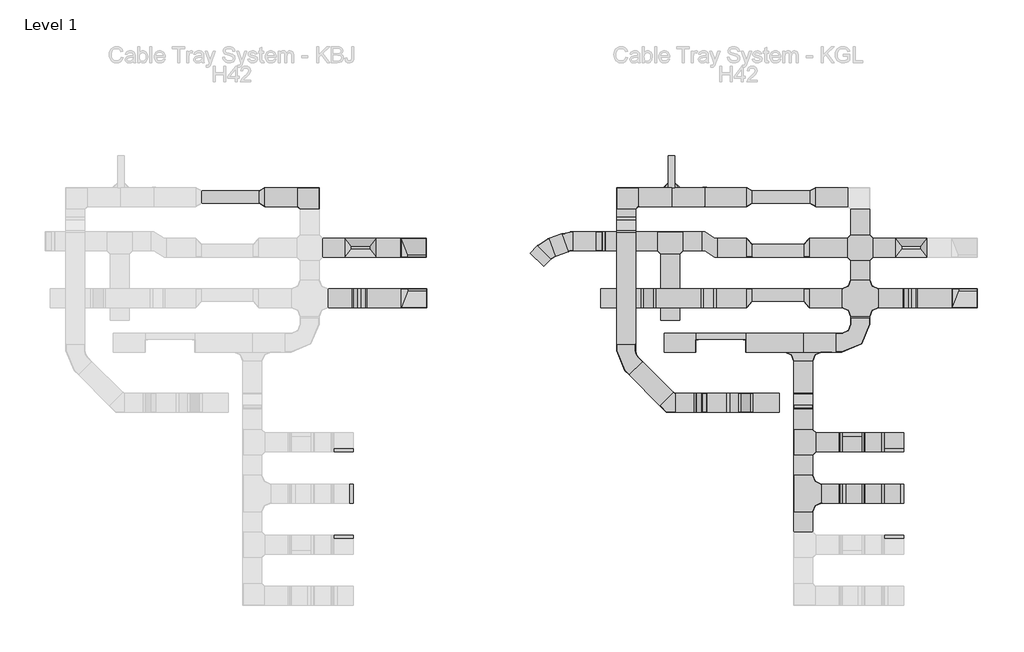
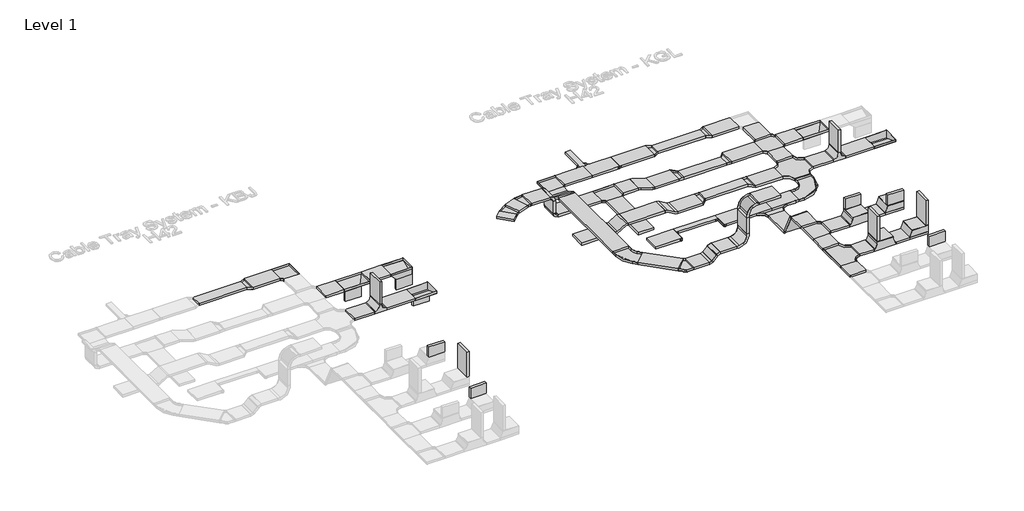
# One storey, part 7 of 106: 67 cable carrier segments, 48 cable carrier fittings.
"""IFC4 building model written with IfcOpenShell, lengths in millimetres."""

from ifc_helpers import new_model, si_unit, frame, origin, place, context, project, spatial, polyline, outline, extrude, transform, mapped, element, save
from components import cable_carrier_fitting_2f03b0e3, cable_carrier_fitting_e5c8e40d, cable_carrier_fitting_89415aa4, cable_carrier_fitting_efa56db2, cable_carrier_fitting_91cb0ece, cable_carrier_fitting_fd90c8b5, cable_carrier_fitting_9cc64f74, cable_carrier_fitting_881c8fdb, cable_carrier_fitting_302010ec, cable_carrier_fitting_bee8c25e, cable_carrier_fitting_2b67af39, cable_carrier_fitting_400b97e6, cable_carrier_fitting_736d034b, cable_carrier_fitting_af289c29, cable_carrier_fitting_3ff81d9b, cable_carrier_fitting_1724e2f5, cable_carrier_fitting_0e05e12f, cable_carrier_fitting_b8cc1d00, cable_carrier_fitting_19ef2403, cable_carrier_fitting_0fee3a18, cable_carrier_fitting_e93d4d17, cable_carrier_fitting_f62230c1, cable_carrier_fitting_68112528, cable_carrier_fitting_3c0e6721, cable_carrier_fitting_94ef316f, cable_carrier_fitting_d4aa8912, cable_carrier_fitting_70c157f5, cable_carrier_fitting_f138ef00, cable_carrier_fitting_b296faec, cable_carrier_fitting_717dd42d, cable_carrier_fitting_55953e98, cable_carrier_fitting_c1d9b0e5, rkj200_h42_1d64d163, rkj200_h42_0f858a6a

model = new_model("IFC4")

# Units and contexts
model_context = context("Model", 3, world=origin())
ifc_project = project(units=[si_unit("LENGTHUNIT", "METRE", prefix="MILLI")], contexts=[model_context])

# Site, building, storey
site = spatial("IfcSite", under=ifc_project)
building = spatial("IfcBuilding", under=site)
storey = spatial("IfcBuildingStorey", under=building, Name="Level 1", Elevation=0.0)

# Cable carrier fittings
placement = place(None, origin())
cable_carrier_fitting_shape = cable_carrier_fitting_2f03b0e3(model_context)
element("IfcCableCarrierFitting", 1, ObjectType="BAKS_Vertical tee symetrical : TRSNJ_H42", at=placement, inside=storey, context=model_context, shape_type="MappedRepresentation", body=[
    mapped(cable_carrier_fitting_shape, transform((-6858.1670538, 67780.8714214, 0.0), x_axis=(1.0, 0.0, 0.0), y_axis=(0.0, -1.0, 0.0), z_axis=(0.0, 0.0, -1.0))),
])
element("IfcCableCarrierFitting", 2, ObjectType="BAKS_Vertical tee symetrical : TRSNJ_H42", at=placement, inside=storey, context=model_context, shape_type="MappedRepresentation", body=[
    mapped(cable_carrier_fitting_shape, transform((-15558.1670538, 67780.8714214, 0.0), x_axis=(1.0, 0.0, 0.0), y_axis=(0.0, -1.0, 0.0), z_axis=(0.0, 0.0, -1.0))),
])
cable_carrier_fitting_2_shape = cable_carrier_fitting_e5c8e40d(model_context)
element("IfcCableCarrierFitting", 3, ObjectType="BAKS_SUB_Corner connector : LRJ_H42", at=placement, inside=storey, context=model_context, shape_type="MappedRepresentation", body=[
    mapped(cable_carrier_fitting_2_shape, transform((-10675.1670538, 69530.8714214, -21.0), x_axis=(-1.0, 0.0, 0.0), y_axis=(0.0, -1.0, 0.0), z_axis=(0.0, 0.0, 1.0))),
])
element("IfcCableCarrierFitting", 4, ObjectType="BAKS_SUB_Corner connector : LRJ_H42", at=placement, inside=storey, context=model_context, shape_type="MappedRepresentation", body=[
    mapped(cable_carrier_fitting_2_shape, transform((-10575.1670538, 69530.8714214, -21.0), x_axis=(0.0, 1.0, 0.0), y_axis=(-1.0, 0.0, 0.0), z_axis=(0.0, 0.0, 1.0))),
])
cable_carrier_fitting_3_shape = cable_carrier_fitting_89415aa4(model_context)
element("IfcCableCarrierFitting", 5, ObjectType="BAKS_Horizontal bend : KKBL/KKMBL_H42", at=placement, inside=storey, context=model_context, shape_type="MappedRepresentation", body=[
    mapped(cable_carrier_fitting_3_shape, transform((-10643.6670538, 66131.3714214, 100.0), x_axis=(0.7071067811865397, -0.7071067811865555, 0.0), y_axis=(0.7071067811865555, 0.7071067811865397, 0.0), z_axis=(0.0, 0.0, 1.0))),
])
cable_carrier_fitting_4_shape = cable_carrier_fitting_efa56db2(model_context)
element("IfcCableCarrierFitting", 6, ObjectType="BAKS_Horizontal bypass : OPZNJ_H42", at=placement, inside=storey, context=model_context, shape_type="MappedRepresentation", body=[
    mapped(cable_carrier_fitting_4_shape, transform((-10022.1670538, 68580.8714214, 0.0), x_axis=(-1.0, 0.0, 0.0), y_axis=(0.0, 1.0, 0.0), z_axis=(0.0, 0.0, -1.0))),
])
cable_carrier_fitting_5_shape = cable_carrier_fitting_91cb0ece(model_context)
element("IfcCableCarrierFitting", 7, ObjectType="BAKS_Horizontal cross over : CZKL_H42", at=placement, inside=storey, context=model_context, shape_type="MappedRepresentation", body=[
    mapped(cable_carrier_fitting_5_shape, transform((-7643.1670538, 68580.8714214, 0.0), x_axis=(0.0, -1.0, 0.0), y_axis=(1.0, 0.0, 0.0), z_axis=(0.0, 0.0, 1.0))),
])
cable_carrier_fitting_6_shape = cable_carrier_fitting_fd90c8b5(model_context)
element("IfcCableCarrierFitting", 8, ObjectType="BAKS_Horizontal tee radius : TKPJ_H42", at=placement, inside=storey, context=model_context, shape_type="MappedRepresentation", body=[
    mapped(cable_carrier_fitting_6_shape, transform((-8546.1670538, 64696.5802898, 432.5277378), x_axis=(0.0, 1.0, 0.0), y_axis=(-1.0, 0.0, 0.0), z_axis=(0.0, 0.0, 1.0))),
])
cable_carrier_fitting_7_shape = cable_carrier_fitting_9cc64f74(model_context)
element("IfcCableCarrierFitting", 9, ObjectType="BAKS_Horizontal tee : TKL_H42", at=placement, inside=storey, context=model_context, shape_type="MappedRepresentation", body=[
    mapped(cable_carrier_fitting_7_shape, transform((-10643.6670538, 68680.8714214, 0.0), x_axis=(1.0, 0.0, 0.0), y_axis=(0.0, 1.0, 0.0), z_axis=(0.0, 0.0, 1.0))),
])
element("IfcCableCarrierFitting", 10, ObjectType="BAKS_Horizontal tee : TKL_H42", at=placement, inside=storey, context=model_context, shape_type="MappedRepresentation", body=[
    mapped(cable_carrier_fitting_7_shape, transform((-8546.1670538, 65503.8631068, 432.5277378), x_axis=(0.0, 1.0, 0.0), y_axis=(-1.0, 0.0, 0.0), z_axis=(0.0, 0.0, 1.0))),
])
cable_carrier_fitting_8_shape = cable_carrier_fitting_881c8fdb(model_context)
element("IfcCableCarrierFitting", 11, ObjectType="BAKS_Universal elbow : KRUMJ_H42", at=placement, inside=storey, context=model_context, shape_type="MappedRepresentation", body=[
    mapped(cable_carrier_fitting_8_shape, transform((-7306.1670538, 64696.5802898, 432.5277378), x_axis=(1.0, 0.0, 0.0), y_axis=(0.0, 1.0, 0.0), z_axis=(0.0, 0.0, 1.0))),
])
cable_carrier_fitting_9_shape = cable_carrier_fitting_302010ec(model_context)
element("IfcCableCarrierFitting", 12, ObjectType="BAKS_Universal tee : TRUNJ_H42", at=placement, inside=storey, context=model_context, shape_type="MappedRepresentation", body=[
    mapped(cable_carrier_fitting_9_shape, transform((-7773.5199976, 64696.5802898, 432.5277378), x_axis=(-1.0, 0.0, 0.0), y_axis=(0.0, -1.0, 0.0), z_axis=(0.0, 0.0, 1.0))),
])
cable_carrier_fitting_10_shape = cable_carrier_fitting_bee8c25e(model_context)
element("IfcCableCarrierFitting", 13, ObjectType="BAKS_Vertical bend adjustable : LLL/LLJ_H42", at=placement, inside=storey, context=model_context, shape_type="MappedRepresentation", body=[
    mapped(cable_carrier_fitting_10_shape, transform((-9546.2659001, 66131.3714214, 237.4011537), x_axis=(1.0, 0.0, 0.0), y_axis=(0.0, 0.0, 1.0), z_axis=(0.0, -1.0, 0.0))),
])
element("IfcCableCarrierFitting", 14, ObjectType="BAKS_Vertical bend adjustable : LLL/LLJ_H42", at=placement, inside=storey, context=model_context, shape_type="MappedRepresentation", body=[
    mapped(cable_carrier_fitting_10_shape, transform((-9546.2659001, 66131.3714214, 977.4011537), x_axis=(0.0, 0.0, 1.0), y_axis=(1.0, 0.0, 0.0), z_axis=(0.0, 1.0, 0.0))),
])
cable_carrier_fitting_11_shape = cable_carrier_fitting_2b67af39(model_context)
element("IfcCableCarrierFitting", 15, ObjectType="BAKS_Vertical bypass : OPNNJ_H42", at=placement, inside=storey, context=model_context, shape_type="MappedRepresentation", body=[
    mapped(cable_carrier_fitting_11_shape, transform((-10986.6670538, 67780.8714214, 100.0), x_axis=(-1.0, 0.0, 0.0), y_axis=(0.0, -1.0, 0.0), z_axis=(0.0, 0.0, 1.0))),
])
cable_carrier_fitting_12_shape = cable_carrier_fitting_400b97e6(model_context)
element("IfcCableCarrierFitting", 16, ObjectType="BAKS_Vertical elbow left : KRLBJ_H42", at=placement, inside=storey, context=model_context, shape_type="MappedRepresentation", body=[
    mapped(cable_carrier_fitting_12_shape, transform((-14908.1670538, 68580.8714214, 0.0), x_axis=(1.0, 0.0, 0.0), y_axis=(0.0, 1.0, 0.0), z_axis=(0.0, 0.0, 1.0))),
])
cable_carrier_fitting_13_shape = cable_carrier_fitting_736d034b(model_context)
element("IfcCableCarrierFitting", 17, ObjectType="BAKS_Vertical tee lengthwise : TRBJ_H42", at=placement, inside=storey, context=model_context, shape_type="MappedRepresentation", body=[
    mapped(cable_carrier_fitting_13_shape, transform((-6838.1670538, 68580.8714214, 0.0), x_axis=(-1.0, 0.0, 0.0), y_axis=(0.0, -1.0, 0.0), z_axis=(0.0, 0.0, 1.0))),
])
element("IfcCableCarrierFitting", 18, ObjectType="BAKS_Vertical tee lengthwise : TRBJ_H42", at=placement, inside=storey, context=model_context, shape_type="MappedRepresentation", body=[
    mapped(cable_carrier_fitting_13_shape, transform((-15538.1670538, 68580.8714214, 0.0), x_axis=(-1.0, 0.0, 0.0), y_axis=(0.0, -1.0, 0.0), z_axis=(0.0, 0.0, 1.0))),
])
cable_carrier_fitting_14_shape = cable_carrier_fitting_af289c29(model_context)
element("IfcCableCarrierFitting", 19, ObjectType="BAKS_Articulated_connector : LGJ_H42", at=placement, inside=storey, context=model_context, shape_type="MappedRepresentation", body=[
    mapped(cable_carrier_fitting_14_shape, transform((-8546.1670538, 66258.7056523, 0.0), x_axis=(0.0, -1.0, 0.0), y_axis=(0.0, 0.0, 1.0), z_axis=(-1.0, 0.0, 0.0))),
])
element("IfcCableCarrierFitting", 20, ObjectType="BAKS_Articulated_connector : LGJ_H42", at=placement, inside=storey, context=model_context, shape_type="MappedRepresentation", body=[
    mapped(cable_carrier_fitting_14_shape, transform((-8546.1670538, 66057.0146558, 432.5277378), x_axis=(0.0, -0.42261826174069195, 0.9063077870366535), y_axis=(0.0, -0.9063077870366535, -0.42261826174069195), z_axis=(1.0, 0.0, 0.0))),
])
cable_carrier_fitting_15_shape = cable_carrier_fitting_3ff81d9b(model_context)
element("IfcCableCarrierFitting", 21, ObjectType="BAKS_Universal tee : TRUNJ_H42", at=placement, inside=storey, context=model_context, shape_type="MappedRepresentation", body=[
    mapped(cable_carrier_fitting_15_shape, transform((-7773.5199976, 65503.8631068, 432.5277378), x_axis=(-1.0, 0.0, 0.0), y_axis=(0.0, -1.0, 0.0), z_axis=(0.0, 0.0, 1.0))),
])
cable_carrier_fitting_16_shape = cable_carrier_fitting_1724e2f5(model_context)
element("IfcCableCarrierFitting", 22, ObjectType="BAKS_Vertical bypass : OPNNJ_H42", at=placement, inside=storey, context=model_context, shape_type="MappedRepresentation", body=[
    mapped(cable_carrier_fitting_16_shape, transform((-10043.6670538, 67780.8714214, 0.0), x_axis=(-1.0, 0.0, 0.0), y_axis=(0.0, -1.0, 0.0), z_axis=(0.0, 0.0, 1.0))),
])
element("IfcCableCarrierFitting", 23, ObjectType="BAKS_Vertical bypass : OPNNJ_H42", at=placement, inside=storey, context=model_context, shape_type="MappedRepresentation", body=[
    mapped(cable_carrier_fitting_16_shape, transform((-11343.1670538, 68939.3714214, 0.0), x_axis=(0.0, -1.0, 0.0), y_axis=(1.0, 0.0, 0.0), z_axis=(0.0, 0.0, 1.0))),
])
cable_carrier_fitting_17_shape = cable_carrier_fitting_0e05e12f(model_context)
element("IfcCableCarrierFitting", 24, ObjectType="BAKS_Universal elbow : KRUMJ_H42", at=placement, inside=storey, context=model_context, shape_type="MappedRepresentation", body=[
    mapped(cable_carrier_fitting_17_shape, transform((-7306.1670538, 65503.8631068, 432.5277378), x_axis=(1.0, 0.0, 0.0), y_axis=(0.0, 1.0, 0.0), z_axis=(0.0, 0.0, 1.0))),
])
cable_carrier_fitting_18_shape = cable_carrier_fitting_b8cc1d00(model_context)
element("IfcCableCarrierFitting", 25, ObjectType="BAKS_Vertical elbow right : KRPJ_H42", at=placement, inside=storey, context=model_context, shape_type="MappedRepresentation", body=[
    mapped(cable_carrier_fitting_18_shape, transform((-6202.1670538, 67780.8714214, 0.0), x_axis=(1.0, 0.0, 0.0), y_axis=(0.0, 1.0, 0.0), z_axis=(0.0, 0.0, 1.0))),
])
element("IfcCableCarrierFitting", 26, ObjectType="BAKS_Vertical elbow right : KRPJ_H42", at=placement, inside=storey, context=model_context, shape_type="MappedRepresentation", body=[
    mapped(cable_carrier_fitting_18_shape, transform((-14902.1670538, 67780.8714214, 0.0), x_axis=(1.0, 0.0, 0.0), y_axis=(0.0, 1.0, 0.0), z_axis=(0.0, 0.0, 1.0))),
])
cable_carrier_fitting_19_shape = cable_carrier_fitting_19ef2403(model_context)
element("IfcCableCarrierFitting", 27, ObjectType="BAKS_Adjustable bend : KKRPJ_H42", at=placement, inside=storey, context=model_context, shape_type="MappedRepresentation", body=[
    mapped(cable_carrier_fitting_19_shape, transform((-12581.9563973, 68557.7441698, 400.0), x_axis=(-0.9396926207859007, -0.34202014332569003, 0.0), y_axis=(0.34202014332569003, -0.9396926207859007, 0.0), z_axis=(0.0, 0.0, 1.0))),
])
cable_carrier_fitting_20_shape = cable_carrier_fitting_0fee3a18(model_context)
element("IfcCableCarrierFitting", 28, ObjectType="BAKS_Adjustable bend : KKRPJ_H42", at=placement, inside=storey, context=model_context, shape_type="MappedRepresentation", body=[
    mapped(cable_carrier_fitting_20_shape, transform((-12243.6670538, 68680.8714214, 400.0), x_axis=(-1.0, 0.0, 0.0), y_axis=(0.0, -1.0, 0.0), z_axis=(0.0, 0.0, 1.0))),
])
cable_carrier_fitting_21_shape = cable_carrier_fitting_e93d4d17(model_context)
element("IfcCableCarrierFitting", 29, ObjectType="BAKS_Plate connector : LPMU_H42", at=placement, inside=storey, context=model_context, shape_type="MappedRepresentation", body=[
    mapped(cable_carrier_fitting_21_shape, transform((-10103.1670538, 69380.8714214, 0.0), x_axis=(1.0, 0.0, 0.0), y_axis=(0.0, 1.0, 0.0), z_axis=(0.0, 0.0, 1.0))),
])
cable_carrier_fitting_22_shape = cable_carrier_fitting_f62230c1(model_context)
element("IfcCableCarrierFitting", 30, ObjectType="BAKS_Vertical bend LU : LLJ_H42", at=placement, inside=storey, context=model_context, shape_type="MappedRepresentation", body=[
    mapped(cable_carrier_fitting_22_shape, transform((-11743.6670538, 68680.8714214, 0.0), x_axis=(-1.0, 0.0, 0.0), y_axis=(0.0, 0.0, 1.0), z_axis=(0.0, 1.0, 0.0))),
])
element("IfcCableCarrierFitting", 31, ObjectType="BAKS_Vertical bend LU : LLJ_H42", at=placement, inside=storey, context=model_context, shape_type="MappedRepresentation", body=[
    mapped(cable_carrier_fitting_22_shape, transform((-11743.6670538, 68680.8714214, 400.0), x_axis=(0.0, 0.0, 1.0), y_axis=(-1.0, 0.0, 0.0), z_axis=(0.0, -1.0, 0.0))),
])
cable_carrier_fitting_23_shape = cable_carrier_fitting_68112528(model_context)
element("IfcCableCarrierFitting", 32, ObjectType="BAKS_Vertical bend LU : LLJ_H42", at=placement, inside=storey, context=model_context, shape_type="MappedRepresentation", body=[
    mapped(cable_carrier_fitting_23_shape, transform((-10243.6670538, 66131.3714214, 100.0), x_axis=(1.0, 0.0, 0.0), y_axis=(0.0, 0.0, 1.0), z_axis=(0.0, -1.0, 0.0))),
])
element("IfcCableCarrierFitting", 33, ObjectType="BAKS_Vertical bend LU : LLJ_H42", at=placement, inside=storey, context=model_context, shape_type="MappedRepresentation", body=[
    mapped(cable_carrier_fitting_23_shape, transform((-10106.2659001, 66131.3714214, 237.4011537), x_axis=(0.7071067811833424, 0.0, 0.7071067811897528), y_axis=(0.7071067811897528, 0.0, -0.7071067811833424), z_axis=(0.0, 1.0, 0.0))),
])
cable_carrier_fitting_24_shape = cable_carrier_fitting_3c0e6721(model_context)
element("IfcCableCarrierFitting", 34, ObjectType="BAKS_Horizontal cross over radius : CZKPJ_H42", at=placement, inside=storey, context=model_context, shape_type="MappedRepresentation", body=[
    mapped(cable_carrier_fitting_24_shape, transform((-7643.1670538, 67780.8714214, 0.0), x_axis=(0.0, -1.0, 0.0), y_axis=(1.0, 0.0, 0.0), z_axis=(0.0, 0.0, 1.0))),
])
cable_carrier_fitting_25_shape = cable_carrier_fitting_94ef316f(model_context)
element("IfcCableCarrierFitting", 35, ObjectType="BAKS_Reducer : RK(S/L/P)L_H42", at=placement, inside=storey, context=model_context, shape_type="MappedRepresentation", body=[
    mapped(cable_carrier_fitting_25_shape, transform((-9443.1670538, 69380.8714214, 0.0), x_axis=(1.0, 0.0, 0.0), y_axis=(0.0, 1.0, 0.0), z_axis=(0.0, 0.0, 1.0))),
])
cable_carrier_fitting_26_shape = cable_carrier_fitting_d4aa8912(model_context)
element("IfcCableCarrierFitting", 36, ObjectType="BAKS_Reducer : RK(S/L/P)L_H42", at=placement, inside=storey, context=model_context, shape_type="MappedRepresentation", body=[
    mapped(cable_carrier_fitting_26_shape, transform((-8443.1670538, 69380.8714214, 0.0), x_axis=(1.0, 0.0, 0.0), y_axis=(0.0, 1.0, 0.0), z_axis=(0.0, 0.0, 1.0))),
])
element("IfcCableCarrierFitting", 37, ObjectType="BAKS_Reducer : RK(S/L/P)L_H42", at=placement, inside=storey, context=model_context, shape_type="MappedRepresentation", body=[
    mapped(cable_carrier_fitting_26_shape, transform((-17143.1670538, 69380.8714214, 0.0), x_axis=(1.0, 0.0, 0.0), y_axis=(0.0, 1.0, 0.0), z_axis=(0.0, 0.0, 1.0))),
])
cable_carrier_fitting_27_shape = cable_carrier_fitting_70c157f5(model_context)
element("IfcCableCarrierFitting", 38, ObjectType="BAKS_Reducer : RK(S/L/P)L_H42", at=placement, inside=storey, context=model_context, shape_type="MappedRepresentation", body=[
    mapped(cable_carrier_fitting_27_shape, transform((-9443.1670538, 68580.8714214, 0.0), x_axis=(1.0, 0.0, 0.0), y_axis=(0.0, 1.0, 0.0), z_axis=(0.0, 0.0, 1.0))),
])
element("IfcCableCarrierFitting", 39, ObjectType="BAKS_Reducer : RK(S/L/P)L_H42", at=placement, inside=storey, context=model_context, shape_type="MappedRepresentation", body=[
    mapped(cable_carrier_fitting_27_shape, transform((-8443.1670538, 67780.8714214, 0.0), x_axis=(-1.0, 0.0, 0.0), y_axis=(0.0, -1.0, 0.0), z_axis=(0.0, 0.0, 1.0))),
])
cable_carrier_fitting_28_shape = cable_carrier_fitting_f138ef00(model_context)
element("IfcCableCarrierFitting", 40, ObjectType="BAKS_Reducer : RK(S/L/P)L_H42", at=placement, inside=storey, context=model_context, shape_type="MappedRepresentation", body=[
    mapped(cable_carrier_fitting_28_shape, transform((-8443.1670538, 68580.8714214, 0.0), x_axis=(-1.0, 0.0, 0.0), y_axis=(0.0, -1.0, 0.0), z_axis=(0.0, 0.0, 1.0))),
])
element("IfcCableCarrierFitting", 41, ObjectType="BAKS_Reducer : RK(S/L/P)L_H42", at=placement, inside=storey, context=model_context, shape_type="MappedRepresentation", body=[
    mapped(cable_carrier_fitting_28_shape, transform((-9443.1670538, 67780.8714214, 0.0), x_axis=(1.0, 0.0, 0.0), y_axis=(0.0, 1.0, 0.0), z_axis=(0.0, 0.0, 1.0))),
])
cable_carrier_fitting_29_shape = cable_carrier_fitting_b296faec(model_context)
element("IfcCableCarrierFitting", 42, ObjectType="BAKS_Horizontal addon tee : TKDJ_H42", at=placement, inside=storey, context=model_context, shape_type="MappedRepresentation", body=[
    mapped(cable_carrier_fitting_29_shape, transform((-8546.1670538, 67080.8714214, 0.0), x_axis=(1.0, 0.0, 0.0), y_axis=(0.0, 1.0, 0.0), z_axis=(0.0, 0.0, 1.0))),
])
cable_carrier_fitting_30_shape = cable_carrier_fitting_717dd42d(model_context)
element("IfcCableCarrierFitting", 43, ObjectType="BAKS_Horizontal bend : KKBL/KKMBL_H42", at=placement, inside=storey, context=model_context, shape_type="MappedRepresentation", body=[
    mapped(cable_carrier_fitting_30_shape, transform((-16343.1670538, 69380.8714214, 0.0), x_axis=(0.0, 1.0, 0.0), y_axis=(-1.0, 0.0, 0.0), z_axis=(0.0, 0.0, 1.0))),
])
element("IfcCableCarrierFitting", 44, ObjectType="BAKS_Horizontal bend : KKBL/KKMBL_H42", at=placement, inside=storey, context=model_context, shape_type="MappedRepresentation", body=[
    mapped(cable_carrier_fitting_30_shape, transform((-11343.1670538, 69380.8714214, 0.0), x_axis=(-1.0, 0.0, 0.0), y_axis=(0.0, -1.0, 0.0), z_axis=(0.0, 0.0, 1.0))),
])
cable_carrier_fitting_31_shape = cable_carrier_fitting_55953e98(model_context)
element("IfcCableCarrierFitting", 45, ObjectType="BAKS_Horizontal bend radius : KKPJ/KKMPJ_H42", at=placement, inside=storey, context=model_context, shape_type="MappedRepresentation", body=[
    mapped(cable_carrier_fitting_31_shape, transform((-11343.1670538, 66830.8714214, 100.0), x_axis=(0.0, -1.0, 0.0), y_axis=(1.0, 0.0, 0.0), z_axis=(0.0, 0.0, 1.0))),
])
cable_carrier_fitting_32_shape = cable_carrier_fitting_c1d9b0e5(model_context)
element("IfcCableCarrierFitting", 46, ObjectType="BAKS_Horizontal bend radius : KKPJ/KKMPJ_H42", at=placement, inside=storey, context=model_context, shape_type="MappedRepresentation", body=[
    mapped(cable_carrier_fitting_32_shape, transform((-7643.1670538, 67080.8714214, 0.0), x_axis=(1.0, 0.0, 0.0), y_axis=(0.0, 1.0, 0.0), z_axis=(0.0, 0.0, 1.0))),
])
rkj200_h42_shape = rkj200_h42_1d64d163(model_context)
element("IfcCableCarrierFitting", 47, ObjectType="BAKS_SUB_Reduction angular : RKJ200_H42", at=placement, inside=storey, context=model_context, shape_type="MappedRepresentation", body=[
    mapped(rkj200_h42_shape, transform((-10243.1670538, 66930.8714214, -21.0), x_axis=(1.0, 0.0, 0.0), y_axis=(0.0, 1.0, 0.0), z_axis=(0.0, 0.0, 1.0))),
])
rkj200_h42_2_shape = rkj200_h42_0f858a6a(model_context)
element("IfcCableCarrierFitting", 48, ObjectType="BAKS_SUB_Reduction angular : RKJ200_H42", at=placement, inside=storey, context=model_context, shape_type="MappedRepresentation", body=[
    mapped(rkj200_h42_2_shape, transform((-9453.1670538, 66930.8714214, -21.0), x_axis=(-1.0, 0.0, 0.0), y_axis=(0.0, -1.0, 0.0), z_axis=(0.0, 0.0, 1.0))),
])

# Cable carrier segments
element("IfcCableCarrierSegment", 49, ObjectType="BAKS - Cable tray H42 (KGL)", at=placement, inside=storey, context=model_context, shape_type="SweptSolid", body=[
    extrude(outline(polyline([(-10102.1670538, 69230.8714214), (-10102.1670538, 69530.8714214), (-9443.1670538, 69530.8714214), (-9443.1670538, 69230.8714214), (-10102.1670538, 69230.8714214)])), frame((0.0, 0.0, -21.0), z_axis=(0.0, 0.0, 1.0), x_axis=(1.0, 0.0, 0.0)), (0.0, 0.0, 1.0), 42.0),
])
element("IfcCableCarrierSegment", 50, ObjectType="BAKS - Cable tray H42 (KGL)", at=placement, inside=storey, context=model_context, shape_type="SweptSolid", body=[
    extrude(outline(polyline([(-9348.1670538, 69280.8714214), (-9348.1670538, 69480.8714214), (-8443.1670538, 69480.8714214), (-8443.1670538, 69280.8714214), (-9348.1670538, 69280.8714214)])), frame((0.0, 0.0, -21.0), z_axis=(0.0, 0.0, 1.0), x_axis=(1.0, 0.0, 0.0)), (0.0, 0.0, 1.0), 42.0),
])
element("IfcCableCarrierSegment", 51, ObjectType="BAKS - Cable tray H42 (KGL)", at=placement, inside=storey, context=model_context, shape_type="SweptSolid", body=[
    extrude(outline(polyline([(-8348.1670538, 69230.8714214), (-8348.1670538, 69530.8714214), (-7839.1670538, 69530.8714214), (-7839.1670538, 69230.8714214), (-8348.1670538, 69230.8714214)])), frame((0.0, 0.0, -21.0), z_axis=(0.0, 0.0, 1.0), x_axis=(1.0, 0.0, 0.0)), (0.0, 0.0, 1.0), 42.0),
])
element("IfcCableCarrierSegment", 52, ObjectType="BAKS - Cable tray H42 (KGL)", at=placement, inside=storey, context=model_context, shape_type="SweptSolid", body=[
    extrude(outline(polyline([(-7793.1670538, 69184.8714214), (-7493.1670538, 69184.8714214), (-7493.1670538, 68785.8714214), (-7793.1670538, 68785.8714214), (-7793.1670538, 69184.8714214)])), frame((0.0, 0.0, -21.0), z_axis=(0.0, 0.0, 1.0), x_axis=(1.0, 0.0, 0.0)), (0.0, 0.0, 1.0), 42.0),
])
element("IfcCableCarrierSegment", 53, ObjectType="BAKS - Cable tray H42 (KGL)", at=placement, inside=storey, context=model_context, shape_type="SweptSolid", body=[
    extrude(outline(polyline([(-7793.1670538, 68375.8714214), (-7493.1670538, 68375.8714214), (-7493.1670538, 68071.8714214), (-7793.1670538, 68071.8714214), (-7793.1670538, 68375.8714214)])), frame((0.0, 0.0, -21.0), z_axis=(0.0, 0.0, 1.0), x_axis=(1.0, 0.0, 0.0)), (0.0, 0.0, 1.0), 42.0),
])
element("IfcCableCarrierSegment", 54, ObjectType="BAKS - Cable tray H42 (KGL)", at=placement, inside=storey, context=model_context, shape_type="SweptSolid", body=[
    extrude(outline(polyline([(-8538.1670538, 68630.8714214), (-8538.1670538, 68430.8714214), (-9348.1670538, 68430.8714214), (-9348.1670538, 68630.8714214), (-8538.1670538, 68630.8714214)])), frame((0.0, 0.0, -21.0), z_axis=(0.0, 0.0, 1.0), x_axis=(1.0, 0.0, 0.0)), (0.0, 0.0, 1.0), 42.0),
])
element("IfcCableCarrierSegment", 55, ObjectType="BAKS - Cable tray H42 (KGL)", at=placement, inside=storey, context=model_context, shape_type="SweptSolid", body=[
    extrude(outline(polyline([(-9900.6670538, 68430.8714214), (-9900.6670538, 68730.8714214), (-9443.1670538, 68730.8714214), (-9443.1670538, 68430.8714214), (-9900.6670538, 68430.8714214)])), frame((0.0, 0.0, -21.0), z_axis=(0.0, 0.0, 1.0), x_axis=(1.0, 0.0, 0.0)), (0.0, 0.0, 1.0), 42.0),
])
element("IfcCableCarrierSegment", 56, ObjectType="BAKS - Cable tray H42 (KGL)", at=placement, inside=storey, context=model_context, shape_type="SweptSolid", body=[
    extrude(outline(polyline([(-7848.1670538, 68730.8714214), (-7848.1670538, 68430.8714214), (-8443.1670538, 68430.8714214), (-8443.1670538, 68730.8714214), (-7848.1670538, 68730.8714214)])), frame((0.0, 0.0, -21.0), z_axis=(0.0, 0.0, 1.0), x_axis=(1.0, 0.0, 0.0)), (0.0, 0.0, 1.0), 42.0),
])
element("IfcCableCarrierSegment", 57, ObjectType="BAKS - Cable tray H42 (KGL)", at=placement, inside=storey, context=model_context, shape_type="SweptSolid", body=[
    extrude(outline(polyline([(-8538.1670538, 67930.8714214), (-8538.1670538, 67730.8714214), (-9348.1670538, 67730.8714214), (-9348.1670538, 67930.8714214), (-8538.1670538, 67930.8714214)])), frame((0.0, 0.0, -21.0), z_axis=(0.0, 0.0, 1.0), x_axis=(1.0, 0.0, 0.0)), (0.0, 0.0, 1.0), 42.0),
])
element("IfcCableCarrierSegment", 58, ObjectType="BAKS - Cable tray H42 (KGL)", at=placement, inside=storey, context=model_context, shape_type="SweptSolid", body=[
    extrude(outline(polyline([(-9922.1670538, 67630.8714214), (-9922.1670538, 67930.8714214), (-9443.1670538, 67930.8714214), (-9443.1670538, 67630.8714214), (-9922.1670538, 67630.8714214)])), frame((0.0, 0.0, -21.0), z_axis=(0.0, 0.0, 1.0), x_axis=(1.0, 0.0, 0.0)), (0.0, 0.0, 1.0), 42.0),
])
element("IfcCableCarrierSegment", 59, ObjectType="BAKS - Cable tray H42 (KGL)", at=placement, inside=storey, context=model_context, shape_type="SweptSolid", body=[
    extrude(outline(polyline([(-7934.1670538, 67930.8714214), (-7934.1670538, 67630.8714214), (-8443.1670538, 67630.8714214), (-8443.1670538, 67930.8714214), (-7934.1670538, 67930.8714214)])), frame((0.0, 0.0, -21.0), z_axis=(0.0, 0.0, 1.0), x_axis=(1.0, 0.0, 0.0)), (0.0, 0.0, 1.0), 42.0),
])
element("IfcCableCarrierSegment", 60, ObjectType="BAKS - Cable tray H42 (KGL)", at=placement, inside=storey, context=model_context, shape_type="SweptSolid", body=[
    extrude(outline(polyline([(-10848.6670538, 68830.8714214), (-10848.6670538, 68530.8714214), (-11667.6670538, 68530.8714214), (-11667.6670538, 68830.8714214), (-10848.6670538, 68830.8714214)])), frame((0.0, 0.0, -21.0), z_axis=(0.0, 0.0, 1.0), x_axis=(1.0, 0.0, 0.0)), (0.0, 0.0, 1.0), 42.0),
])
element("IfcCableCarrierSegment", 61, ObjectType="BAKS - Cable tray H42 (KGL)", at=placement, inside=storey, context=model_context, shape_type="SweptSolid", body=[
    extrude(outline(polyline([(-10165.1670538, 67930.8714214), (-10165.1670538, 67630.8714214), (-10865.1670538, 67630.8714214), (-10865.1670538, 67930.8714214), (-10165.1670538, 67930.8714214)])), frame((0.0, 0.0, 79.0), z_axis=(0.0, 0.0, 1.0), x_axis=(1.0, 0.0, 0.0)), (0.0, 0.0, 1.0), 42.0),
])
element("IfcCableCarrierSegment", 62, ObjectType="BAKS - Cable tray H42 (KGL)", at=placement, inside=storey, context=model_context, shape_type="SweptSolid", body=[
    extrude(outline(polyline([(-11493.1670538, 69184.8714214), (-11193.1670538, 69184.8714214), (-11193.1670538, 69060.8714214), (-11493.1670538, 69060.8714214), (-11493.1670538, 69184.8714214)])), frame((0.0, 0.0, -21.0), z_axis=(0.0, 0.0, 1.0), x_axis=(1.0, 0.0, 0.0)), (0.0, 0.0, 1.0), 42.0),
])
element("IfcCableCarrierSegment", 63, ObjectType="BAKS - Cable tray H42 (KGL)", at=placement, inside=storey, context=model_context, shape_type="SweptSolid", body=[
    extrude(outline(polyline([(-10793.6670538, 68475.8714214), (-10493.6670538, 68475.8714214), (-10493.6670538, 67430.8714214), (-10793.6670538, 67430.8714214), (-10793.6670538, 68475.8714214)])), frame((0.0, 0.0, -21.0), z_axis=(0.0, 0.0, 1.0), x_axis=(1.0, 0.0, 0.0)), (0.0, 0.0, 1.0), 42.0),
])
element("IfcCableCarrierSegment", 64, ObjectType="BAKS - Cable tray H42 (KGL)", at=placement, inside=storey, context=model_context, shape_type="SweptSolid", body=[
    extrude(outline(polyline([(-10143.6670538, 68830.8714214), (-10143.6670538, 68530.8714214), (-10438.6670538, 68530.8714214), (-10438.6670538, 68830.8714214), (-10143.6670538, 68830.8714214)])), frame((0.0, 0.0, -21.0), z_axis=(0.0, 0.0, 1.0), x_axis=(1.0, 0.0, 0.0)), (0.0, 0.0, 1.0), 42.0),
])
element("IfcCableCarrierSegment", 65, ObjectType="BAKS - Cable tray H42 (KGL)", at=placement, inside=storey, context=model_context, shape_type="SweptSolid", body=[
    extrude(outline(polyline([(-11108.1670538, 67930.8714214), (-11108.1670538, 67630.8714214), (-11743.6670538, 67630.8714214), (-11743.6670538, 67930.8714214), (-11108.1670538, 67930.8714214)])), frame((0.0, 0.0, -21.0), z_axis=(0.0, 0.0, 1.0), x_axis=(1.0, 0.0, 0.0)), (0.0, 0.0, 1.0), 42.0),
])
element("IfcCableCarrierSegment", 66, ObjectType="BAKS - Cable tray H42 (KGL)", at=placement, inside=storey, context=model_context, shape_type="SweptSolid", body=[
    extrude(outline(polyline([(-12177.5322294, 68530.8714214), (-12177.5322294, 68830.8714214), (-11819.6670538, 68830.8714214), (-11819.6670538, 68530.8714214), (-12177.5322294, 68530.8714214)])), frame((0.0, 0.0, 379.0), z_axis=(0.0, 0.0, 1.0), x_axis=(1.0, 0.0, 0.0)), (0.0, 0.0, 1.0), 42.0),
])
element("IfcCableCarrierSegment", 67, ObjectType="BAKS - Cable tray H42 (KGL)", at=placement, inside=storey, context=model_context, shape_type="SweptSolid", body=[
    extrude(outline(polyline([(-11764.6670538, 68830.8714214), (-11722.6670538, 68830.8714214), (-11722.6670538, 68530.8714214), (-11764.6670538, 68530.8714214), (-11764.6670538, 68830.8714214)])), frame((0.0, 0.0, 76.0), z_axis=(0.0, 0.0, 1.0), x_axis=(1.0, 0.0, 0.0)), (0.0, 0.0, 1.0), 248.0),
])
element("IfcCableCarrierSegment", 68, ObjectType="BAKS - Cable tray H42 (KGL)", at=placement, inside=storey, context=model_context, shape_type="SweptSolid", body=[
    extrude(outline(polyline([(-11193.1670538, 67050.9933545), (-11493.1670538, 67050.9933545), (-11493.1670538, 68817.8714214), (-11193.1670538, 68817.8714214), (-11193.1670538, 67050.9933545)])), frame((0.0, 0.0, 79.0), z_axis=(0.0, 0.0, 1.0), x_axis=(1.0, 0.0, 0.0)), (0.0, 0.0, 1.0), 42.0),
])
element("IfcCableCarrierSegment", 69, ObjectType="BAKS - Cable tray H42 (KGL)", at=placement, inside=storey, context=model_context, shape_type="SweptSolid", body=[
    extrude(outline(polyline([(-11293.5833594, 66569.1556926), (-11081.451325, 66781.287727), (-10595.422321, 66295.258723), (-10807.5543554, 66083.1266887), (-11293.5833594, 66569.1556926)])), frame((0.0, 0.0, 79.0), z_axis=(0.0, 0.0, 1.0), x_axis=(1.0, 0.0, 0.0)), (0.0, 0.0, 1.0), 42.0),
])
element("IfcCableCarrierSegment", 70, ObjectType="BAKS - Cable tray H42 (KGL)", at=placement, inside=storey, context=model_context, shape_type="SweptSolid", body=[
    extrude(outline(polyline([(-10561.8954091, 65981.3714214), (-10561.8954091, 66281.3714214), (-10278.0762167, 66281.3714214), (-10278.0762167, 65981.3714214), (-10561.8954091, 65981.3714214)])), frame((0.0, 0.0, 79.0), z_axis=(0.0, 0.0, 1.0), x_axis=(1.0, 0.0, 0.0)), (0.0, 0.0, 1.0), 42.0),
])
element("IfcCableCarrierSegment", 71, ObjectType="BAKS - Cable tray H42 (KGL)", at=placement, inside=storey, context=model_context, shape_type="SweptSolid", body=[
    extrude(outline(polyline([(21.0, 1.4628667), (-21.0, 1.4628667), (-21.0, 301.4628667), (21.0, 301.4628667), (21.0, 1.4628667)])), frame((-10219.3361013, 65979.9085547, 124.3309524), z_axis=(0.7071067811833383, 0.0, 0.7071067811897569), x_axis=(0.7071067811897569, 0.0, -0.7071067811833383)), (0.0, 0.0, 1.0), 125.4962492),
])
element("IfcCableCarrierSegment", 72, ObjectType="BAKS - Cable tray H42 (KGL)", at=placement, inside=storey, context=model_context, shape_type="SweptSolid", body=[
    extrude(outline(polyline([(-10071.8567371, 65981.3714214), (-10071.8567371, 66281.3714214), (-9757.2659001, 66281.3714214), (-9757.2659001, 65981.3714214), (-10071.8567371, 65981.3714214)])), frame((0.0, 0.0, 216.4011537), z_axis=(0.0, 0.0, 1.0), x_axis=(1.0, 0.0, 0.0)), (0.0, 0.0, 1.0), 42.0),
])
element("IfcCableCarrierSegment", 73, ObjectType="BAKS - Cable tray H42 (KGL)", at=placement, inside=storey, context=model_context, shape_type="SweptSolid", body=[
    extrude(outline(polyline([(-9525.2659001, 65981.3714214), (-9567.2659001, 65981.3714214), (-9567.2659001, 66281.3714214), (-9525.2659001, 66281.3714214), (-9525.2659001, 65981.3714214)])), frame((0.0, 0.0, 448.4011537), z_axis=(0.0, 0.0, 1.0), x_axis=(1.0, 0.0, 0.0)), (0.0, 0.0, 1.0), 318.0),
])
element("IfcCableCarrierSegment", 74, ObjectType="BAKS - Cable tray H42 (KGL)", at=placement, inside=storey, context=model_context, shape_type="SweptSolid", body=[
    extrude(outline(polyline([(-9335.2659001, 65981.3714214), (-9335.2659001, 66281.3714214), (-8926.2659001, 66281.3714214), (-8926.2659001, 65981.3714214), (-9335.2659001, 65981.3714214)])), frame((0.0, 0.0, 956.4011537), z_axis=(0.0, 0.0, 1.0), x_axis=(1.0, 0.0, 0.0)), (0.0, 0.0, 1.0), 42.0),
])
element("IfcCableCarrierSegment", 75, ObjectType="BAKS - Cable tray H42 (KGL)", at=placement, inside=storey, context=model_context, shape_type="SweptSolid", body=[
    extrude(outline(polyline([(-8546.7091451, 67230.8714214), (-8546.7091451, 66930.8714214), (-9452.1670538, 66930.8714214), (-9452.1670538, 67230.8714214), (-8546.7091451, 67230.8714214)])), frame((0.0, 0.0, -21.0), z_axis=(0.0, 0.0, 1.0), x_axis=(1.0, 0.0, 0.0)), (0.0, 0.0, 1.0), 42.0),
])
element("IfcCableCarrierSegment", 76, ObjectType="BAKS - Cable tray H42 (KGL)", at=placement, inside=storey, context=model_context, shape_type="SweptSolid", body=[
    extrude(outline(polyline([(-7493.1670538, 67470.8714214), (-7793.1670538, 67470.8714214), (-7793.1670538, 67489.8714214), (-7493.1670538, 67489.8714214), (-7493.1670538, 67470.8714214)])), frame((0.0, 0.0, -21.0), z_axis=(0.0, 0.0, 1.0), x_axis=(1.0, 0.0, 0.0)), (0.0, 0.0, 1.0), 42.0),
])
element("IfcCableCarrierSegment", 77, ObjectType="BAKS - Cable tray H42 (KGL)", at=placement, inside=storey, context=model_context, shape_type="SweptSolid", body=[
    extrude(outline(polyline([(-10743.1670538, 66930.8714214), (-10743.1670538, 67230.8714214), (-10243.1670538, 67230.8714214), (-10243.1670538, 66930.8714214), (-10743.1670538, 66930.8714214)])), frame((0.0, 0.0, -21.0), z_axis=(0.0, 0.0, 1.0), x_axis=(1.0, 0.0, 0.0)), (0.0, 0.0, 1.0), 42.0),
])
element("IfcCableCarrierSegment", 78, ObjectType="BAKS - Cable tray H42 (KGL)", at=placement, inside=storey, context=model_context, shape_type="SweptSolid", body=[
    extrude(outline(polyline([(-8033.1670538, 67230.8714214), (-8033.1670538, 66930.8714214), (-8545.6249624, 66930.8714214), (-8545.6249624, 67230.8714214), (-8033.1670538, 67230.8714214)])), frame((0.0, 0.0, -21.0), z_axis=(0.0, 0.0, 1.0), x_axis=(1.0, 0.0, 0.0)), (0.0, 0.0, 1.0), 42.0),
])
element("IfcCableCarrierSegment", 79, ObjectType="BAKS - Cable tray H42 (KGL)", at=placement, inside=storey, context=model_context, shape_type="SweptSolid", body=[
    extrude(outline(polyline([(-8696.1670538, 66784.8714214), (-8396.1670538, 66784.8714214), (-8396.1670538, 66285.269479), (-8696.1670538, 66285.269479), (-8696.1670538, 66784.8714214)])), frame((0.0, 0.0, -21.0), z_axis=(0.0, 0.0, 1.0), x_axis=(1.0, 0.0, 0.0)), (0.0, 0.0, 1.0), 42.0),
])
element("IfcCableCarrierSegment", 80, ObjectType="BAKS - Cable tray H42 (KGL)", at=placement, inside=storey, context=model_context, shape_type="SweptSolid", body=[
    extrude(outline(polyline([(-150.0, 130.4628667), (-150.0, 172.4628668), (150.0, 172.4628668), (150.0, 130.4628667), (-150.0, 130.4628667)])), frame((-8546.1670538, 66110.2073184, -39.9359704), z_axis=(0.0, -0.422618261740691, 0.9063077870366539), x_axis=(1.0, 0.0, 0.0)), (0.0, 0.0, 1.0), 424.1139016),
])
element("IfcCableCarrierSegment", 81, ObjectType="BAKS - Cable tray H42 (KGL)", at=placement, inside=storey, context=model_context, shape_type="SweptSolid", body=[
    extrude(outline(polyline([(-12357.1164817, 68799.2058724), (-12254.5104387, 68517.2980862), (-12456.1437833, 68443.9095505), (-12558.7498263, 68725.8173368), (-12357.1164817, 68799.2058724)])), frame((0.0, 0.0, 379.0), z_axis=(0.0, 0.0, 1.0), x_axis=(1.0, 0.0, 0.0)), (0.0, 0.0, 1.0), 42.0),
])
element("IfcCableCarrierSegment", 82, ObjectType="BAKS - Cable tray H42 (KGL)", at=placement, inside=storey, context=model_context, shape_type="SweptSolid", body=[
    extrude(outline(polyline([(-12744.0899379, 68607.7426635), (-12531.9579036, 68395.6106291), (-12644.3432656, 68283.2252671), (-12856.4753, 68495.3573015), (-12744.0899379, 68607.7426635)])), frame((0.0, 0.0, 379.0), z_axis=(0.0, 0.0, 1.0), x_axis=(1.0, 0.0, 0.0)), (0.0, 0.0, 1.0), 42.0),
])
element("IfcCableCarrierSegment", 83, ObjectType="BAKS - Cable tray H42 (KGL)", at=placement, inside=storey, context=model_context, shape_type="SweptSolid", body=[
    extrude(outline(polyline([(-7438.1670538, 68430.8714214), (-7438.1670538, 68730.8714214), (-7088.1670538, 68730.8714214), (-7088.1670538, 68430.8714214), (-7438.1670538, 68430.8714214)])), frame((0.0, 0.0, -21.0), z_axis=(0.0, 0.0, 1.0), x_axis=(1.0, 0.0, 0.0)), (0.0, 0.0, 1.0), 42.0),
])
element("IfcCableCarrierSegment", 84, ObjectType="BAKS - Cable tray H42 (KGL)", at=placement, inside=storey, context=model_context, shape_type="SweptSolid", body=[
    extrude(outline(polyline([(-7352.1670538, 67630.8714214), (-7352.1670538, 67930.8714214), (-6974.1670538, 67930.8714214), (-6974.1670538, 67630.8714214), (-7352.1670538, 67630.8714214)])), frame((0.0, 0.0, -21.0), z_axis=(0.0, 0.0, 1.0), x_axis=(1.0, 0.0, 0.0)), (0.0, 0.0, 1.0), 42.0),
])
element("IfcCableCarrierSegment", 85, ObjectType="BAKS - Cable tray H42 (KGL)", at=placement, inside=storey, context=model_context, shape_type="SweptSolid", body=[
    extrude(outline(polyline([(-6742.1670538, 67630.8714214), (-6742.1670538, 67930.8714214), (-6202.1670538, 67930.8714214), (-6202.1670538, 67630.8714214), (-6742.1670538, 67630.8714214)])), frame((0.0, 0.0, -21.0), z_axis=(0.0, 0.0, 1.0), x_axis=(1.0, 0.0, 0.0)), (0.0, 0.0, 1.0), 42.0),
])
element("IfcCableCarrierSegment", 86, ObjectType="BAKS - Cable tray H42 (KGL)", at=placement, inside=storey, context=model_context, shape_type="SweptSolid", body=[
    extrude(outline(polyline([(-6837.1670538, 67630.8714214), (-6879.1670538, 67630.8714214), (-6879.1670538, 67930.8714214), (-6837.1670538, 67930.8714214), (-6837.1670538, 67630.8714214)])), frame((0.0, 0.0, 136.0), z_axis=(0.0, 0.0, 1.0), x_axis=(1.0, 0.0, 0.0)), (0.0, 0.0, 1.0), 449.0),
])
element("IfcCableCarrierSegment", 87, ObjectType="BAKS - Cable tray H42 (KBJ)", at=placement, inside=storey, context=model_context, shape_type="SweptSolid", body=[
    extrude(outline(polyline([(-18048.1670538, 69280.8714214), (-18048.1670538, 69480.8714214), (-17143.1670538, 69480.8714214), (-17143.1670538, 69280.8714214), (-18048.1670538, 69280.8714214)])), frame((0.0, 0.0, -21.0), z_axis=(0.0, 0.0, 1.0), x_axis=(1.0, 0.0, 0.0)), (0.0, 0.0, 1.0), 42.0),
])
element("IfcCableCarrierSegment", 88, ObjectType="BAKS - Cable tray H42 (KBJ)", at=placement, inside=storey, context=model_context, shape_type="SweptSolid", body=[
    extrude(outline(polyline([(-17048.1670538, 69230.8714214), (-17048.1670538, 69530.8714214), (-16539.1670538, 69530.8714214), (-16539.1670538, 69230.8714214), (-17048.1670538, 69230.8714214)])), frame((0.0, 0.0, -21.0), z_axis=(0.0, 0.0, 1.0), x_axis=(1.0, 0.0, 0.0)), (0.0, 0.0, 1.0), 42.0),
])
element("IfcCableCarrierSegment", 89, ObjectType="BAKS - Cable tray H42 (KBJ)", at=placement, inside=storey, context=model_context, shape_type="SweptSolid", body=[
    extrude(outline(polyline([(-16138.1670538, 68430.8714214), (-16138.1670538, 68730.8714214), (-15788.1670538, 68730.8714214), (-15788.1670538, 68430.8714214), (-16138.1670538, 68430.8714214)])), frame((0.0, 0.0, -21.0), z_axis=(0.0, 0.0, 1.0), x_axis=(1.0, 0.0, 0.0)), (0.0, 0.0, 1.0), 42.0),
])
element("IfcCableCarrierSegment", 90, ObjectType="BAKS - Cable tray H42 (KBJ)", at=placement, inside=storey, context=model_context, shape_type="SweptSolid", body=[
    extrude(outline(polyline([(-16052.1670538, 67630.8714214), (-16052.1670538, 67930.8714214), (-15674.1670538, 67930.8714214), (-15674.1670538, 67630.8714214), (-16052.1670538, 67630.8714214)])), frame((0.0, 0.0, -21.0), z_axis=(0.0, 0.0, 1.0), x_axis=(1.0, 0.0, 0.0)), (0.0, 0.0, 1.0), 42.0),
])
element("IfcCableCarrierSegment", 91, ObjectType="BAKS - Cable tray H42 (KBJ)", at=placement, inside=storey, context=model_context, shape_type="SweptSolid", body=[
    extrude(outline(polyline([(-15442.1670538, 67630.8714214), (-15442.1670538, 67930.8714214), (-14902.1670538, 67930.8714214), (-14902.1670538, 67630.8714214), (-15442.1670538, 67630.8714214)])), frame((0.0, 0.0, -21.0), z_axis=(0.0, 0.0, 1.0), x_axis=(1.0, 0.0, 0.0)), (0.0, 0.0, 1.0), 42.0),
])
element("IfcCableCarrierSegment", 92, ObjectType="BAKS - Cable tray H42 (KBJ)", at=placement, inside=storey, context=model_context, shape_type="SweptSolid", body=[
    extrude(outline(polyline([(-15537.1670538, 67630.8714214), (-15579.1670538, 67630.8714214), (-15579.1670538, 67930.8714214), (-15537.1670538, 67930.8714214), (-15537.1670538, 67630.8714214)])), frame((0.0, 0.0, 136.0), z_axis=(0.0, 0.0, 1.0), x_axis=(1.0, 0.0, 0.0)), (0.0, 0.0, 1.0), 449.0),
])
element("IfcCableCarrierSegment", 93, ObjectType="BAKS - Cable tray H42 (KBJ)", at=placement, inside=storey, context=model_context, shape_type="SweptSolid", body=[
    extrude(outline(polyline([(-15288.1670538, 68430.8714214), (-15288.1670538, 68730.8714214), (-14908.1670538, 68730.8714214), (-14908.1670538, 68430.8714214), (-15288.1670538, 68430.8714214)])), frame((0.0, 0.0, -21.0), z_axis=(0.0, 0.0, 1.0), x_axis=(1.0, 0.0, 0.0)), (0.0, 0.0, 1.0), 42.0),
])
element("IfcCableCarrierSegment", 94, ObjectType="BAKS - Cable tray H42 (KGL)", at=placement, inside=storey, context=model_context, shape_type="SweptSolid", body=[
    extrude(outline(polyline([(-10625.6670538, 69530.8714214), (-10625.6670538, 69230.8714214), (-11147.1670538, 69230.8714214), (-11147.1670538, 69530.8714214), (-10625.6670538, 69530.8714214)])), frame((0.0, 0.0, -21.0), z_axis=(0.0, 0.0, 1.0), x_axis=(1.0, 0.0, 0.0)), (0.0, 0.0, 1.0), 42.0),
])
element("IfcCableCarrierSegment", 95, ObjectType="BAKS - Cable tray H42 (KGL)", at=placement, inside=storey, context=model_context, shape_type="SweptSolid", body=[
    extrude(outline(polyline([(-10575.1670538, 69530.8714214), (-10675.1670538, 69530.8714214), (-10675.1670538, 70030.8714214), (-10575.1670538, 70030.8714214), (-10575.1670538, 69530.8714214)])), frame((0.0, 0.0, -21.0), z_axis=(0.0, 0.0, 1.0), x_axis=(1.0, 0.0, 0.0)), (0.0, 0.0, 1.0), 42.0),
])
element("IfcCableCarrierSegment", 96, ObjectType="BAKS - Cable tray H42 (KGL)", at=placement, inside=storey, context=model_context, shape_type="SweptSolid", body=[
    extrude(outline(polyline([(-10103.1670538, 69530.8714214), (-10103.1670538, 69230.8714214), (-10624.6670538, 69230.8714214), (-10624.6670538, 69530.8714214), (-10103.1670538, 69530.8714214)])), frame((0.0, 0.0, -21.0), z_axis=(0.0, 0.0, 1.0), x_axis=(1.0, 0.0, 0.0)), (0.0, 0.0, 1.0), 42.0),
])
element("IfcCableCarrierSegment", 97, ObjectType="BAKS - Cable tray H42 (KBJ)", at=placement, inside=storey, context=model_context, shape_type="SweptSolid", body=[
    extrude(outline(polyline([(-15956.1670538, 65353.8631068), (-15956.1670538, 65403.8631068), (-15656.1670538, 65403.8631068), (-15656.1670538, 65353.8631068), (-15956.1670538, 65353.8631068)])), frame((0.0, 0.0, 586.5277378), z_axis=(0.0, 0.0, 1.0), x_axis=(1.0, 0.0, 0.0)), (0.0, 0.0, 1.0), 209.7997464),
])
element("IfcCableCarrierSegment", 98, ObjectType="BAKS - Cable tray H42 (KBJ)", at=placement, inside=storey, context=model_context, shape_type="SweptSolid", body=[
    extrude(outline(polyline([(-15706.1670538, 64846.5802898), (-15656.1670538, 64846.5802898), (-15656.1670538, 64546.5802898), (-15706.1670538, 64546.5802898), (-15706.1670538, 64846.5802898)])), frame((0.0, 0.0, 586.5277378), z_axis=(0.0, 0.0, 1.0), x_axis=(1.0, 0.0, 0.0)), (0.0, 0.0, 1.0), 500.0),
])
element("IfcCableCarrierSegment", 99, ObjectType="BAKS - Cable tray H42 (KBJ)", at=placement, inside=storey, context=model_context, shape_type="SweptSolid", body=[
    extrude(outline(polyline([(-15956.1670538, 63989.2974728), (-15956.1670538, 64039.2974728), (-15656.1670538, 64039.2974728), (-15656.1670538, 63989.2974728), (-15956.1670538, 63989.2974728)])), frame((0.0, 0.0, 586.5277378), z_axis=(0.0, 0.0, 1.0), x_axis=(1.0, 0.0, 0.0)), (0.0, 0.0, 1.0), 209.7997464),
])
element("IfcCableCarrierSegment", 100, ObjectType="BAKS - Cable tray H42 (KGL)", at=placement, inside=storey, context=model_context, shape_type="SweptSolid", body=[
    extrude(outline(polyline([(-8696.1670538, 64401.5802898), (-8396.1670538, 64401.5802898), (-8396.1670538, 64094.2974728), (-8696.1670538, 64094.2974728), (-8696.1670538, 64401.5802898)])), frame((0.0, 0.0, 411.5277378), z_axis=(0.0, 0.0, 1.0), x_axis=(1.0, 0.0, 0.0)), (0.0, 0.0, 1.0), 42.0),
])
element("IfcCableCarrierSegment", 101, ObjectType="BAKS - Cable tray H42 (KGL)", at=placement, inside=storey, context=model_context, shape_type="SweptSolid", body=[
    extrude(outline(polyline([(-7563.5199976, 64546.5802898), (-7563.5199976, 64846.5802898), (-7306.1670538, 64846.5802898), (-7306.1670538, 64546.5802898), (-7563.5199976, 64546.5802898)])), frame((0.0, 0.0, 411.5277378), z_axis=(0.0, 0.0, 1.0), x_axis=(1.0, 0.0, 0.0)), (0.0, 0.0, 1.0), 42.0),
])
element("IfcCableCarrierSegment", 102, ObjectType="BAKS - Cable tray H42 (KGL)", at=placement, inside=storey, context=model_context, shape_type="SweptSolid", body=[
    extrude(outline(polyline([(-8696.1670538, 65298.8631068), (-8396.1670538, 65298.8631068), (-8396.1670538, 64991.5802898), (-8696.1670538, 64991.5802898), (-8696.1670538, 65298.8631068)])), frame((0.0, 0.0, 411.5277378), z_axis=(0.0, 0.0, 1.0), x_axis=(1.0, 0.0, 0.0)), (0.0, 0.0, 1.0), 42.0),
])
element("IfcCableCarrierSegment", 103, ObjectType="BAKS - Cable tray H42 (KGL)", at=placement, inside=storey, context=model_context, shape_type="SweptSolid", body=[
    extrude(outline(polyline([(-7563.5199976, 65353.8631068), (-7563.5199976, 65653.8631068), (-7306.1670538, 65653.8631068), (-7306.1670538, 65353.8631068), (-7563.5199976, 65353.8631068)])), frame((0.0, 0.0, 411.5277378), z_axis=(0.0, 0.0, 1.0), x_axis=(1.0, 0.0, 0.0)), (0.0, 0.0, 1.0), 42.0),
])
element("IfcCableCarrierSegment", 104, ObjectType="BAKS - Cable tray H42 (KGL)", at=placement, inside=storey, context=model_context, shape_type="SweptSolid", body=[
    extrude(outline(polyline([(-8396.1670538, 65708.8631068), (-8696.1670538, 65708.8631068), (-8696.1670538, 66030.450829), (-8396.1670538, 66030.450829), (-8396.1670538, 65708.8631068)])), frame((0.0, 0.0, 411.5277378), z_axis=(0.0, 0.0, 1.0), x_axis=(1.0, 0.0, 0.0)), (0.0, 0.0, 1.0), 42.0),
])
element("IfcCableCarrierSegment", 105, ObjectType="BAKS - Cable tray H42 (KGL)", at=placement, inside=storey, context=model_context, shape_type="SweptSolid", body=[
    extrude(outline(polyline([(-8341.1670538, 65353.8631068), (-8341.1670538, 65653.8631068), (-7983.5199976, 65653.8631068), (-7983.5199976, 65353.8631068), (-8341.1670538, 65353.8631068)])), frame((0.0, 0.0, 411.5277378), z_axis=(0.0, 0.0, 1.0), x_axis=(1.0, 0.0, 0.0)), (0.0, 0.0, 1.0), 42.0),
])
element("IfcCableCarrierSegment", 106, ObjectType="BAKS - Cable tray H42 (KGL)", at=placement, inside=storey, context=model_context, shape_type="SweptSolid", body=[
    extrude(outline(polyline([(-8251.1670538, 64546.5802898), (-8251.1670538, 64846.5802898), (-7983.5199976, 64846.5802898), (-7983.5199976, 64546.5802898), (-8251.1670538, 64546.5802898)])), frame((0.0, 0.0, 411.5277378), z_axis=(0.0, 0.0, 1.0), x_axis=(1.0, 0.0, 0.0)), (0.0, 0.0, 1.0), 42.0),
])
element("IfcCableCarrierSegment", 107, ObjectType="BAKS - Cable tray H42 (KGL)", at=placement, inside=storey, context=model_context, shape_type="SweptSolid", body=[
    extrude(outline(polyline([(-7256.1670538, 65353.8631068), (-7256.1670538, 65403.8631068), (-6956.1670538, 65403.8631068), (-6956.1670538, 65353.8631068), (-7256.1670538, 65353.8631068)])), frame((0.0, 0.0, 586.5277378), z_axis=(0.0, 0.0, 1.0), x_axis=(1.0, 0.0, 0.0)), (0.0, 0.0, 1.0), 209.7997464),
])
element("IfcCableCarrierSegment", 108, ObjectType="BAKS - Cable tray H42 (KGL)", at=placement, inside=storey, context=model_context, shape_type="SweptSolid", body=[
    extrude(outline(polyline([(-7623.5199976, 65653.8631068), (-7623.5199976, 65603.8631068), (-7923.5199976, 65603.8631068), (-7923.5199976, 65653.8631068), (-7623.5199976, 65653.8631068)])), frame((0.0, 0.0, 586.5277378), z_axis=(0.0, 0.0, 1.0), x_axis=(1.0, 0.0, 0.0)), (0.0, 0.0, 1.0), 209.7997464),
])
element("IfcCableCarrierSegment", 109, ObjectType="BAKS - Cable tray H42 (KGL)", at=placement, inside=storey, context=model_context, shape_type="SweptSolid", body=[
    extrude(outline(polyline([(-7006.1670538, 64846.5802898), (-6956.1670538, 64846.5802898), (-6956.1670538, 64546.5802898), (-7006.1670538, 64546.5802898), (-7006.1670538, 64846.5802898)])), frame((0.0, 0.0, 586.5277378), z_axis=(0.0, 0.0, 1.0), x_axis=(1.0, 0.0, 0.0)), (0.0, 0.0, 1.0), 500.0),
])
element("IfcCableCarrierSegment", 110, ObjectType="BAKS - Cable tray H42 (KGL)", at=placement, inside=storey, context=model_context, shape_type="SweptSolid", body=[
    extrude(outline(polyline([(-7923.5199976, 64846.5802898), (-7873.5199976, 64846.5802898), (-7873.5199976, 64546.5802898), (-7923.5199976, 64546.5802898), (-7923.5199976, 64846.5802898)])), frame((0.0, 0.0, 586.5277378), z_axis=(0.0, 0.0, 1.0), x_axis=(1.0, 0.0, 0.0)), (0.0, 0.0, 1.0), 500.0),
])
element("IfcCableCarrierSegment", 111, ObjectType="BAKS - Cable tray H42 (KGL)", at=placement, inside=storey, context=model_context, shape_type="SweptSolid", body=[
    extrude(outline(polyline([(-7256.1670538, 63989.2974728), (-7256.1670538, 64039.2974728), (-6956.1670538, 64039.2974728), (-6956.1670538, 63989.2974728), (-7256.1670538, 63989.2974728)])), frame((0.0, 0.0, 586.5277378), z_axis=(0.0, 0.0, 1.0), x_axis=(1.0, 0.0, 0.0)), (0.0, 0.0, 1.0), 209.7997464),
])
element("IfcCableCarrierSegment", 112, ObjectType="BAKS - Cable tray H42 (KBJ)", at=placement, inside=storey, context=model_context, shape_type="SweptSolid", body=[
    extrude(outline(polyline([(-15688.1670538, 68601.8714214), (-15388.1670538, 68601.8714214), (-15388.1670538, 68559.8714214), (-15688.1670538, 68559.8714214), (-15688.1670538, 68601.8714214)])), frame((0.0, 0.0, -330.7997464), z_axis=(0.0, 0.0, 1.0), x_axis=(1.0, 0.0, 0.0)), (0.0, 0.0, 1.0), 209.7997464),
])
element("IfcCableCarrierSegment", 113, ObjectType="BAKS - Cable tray H42 (KBJ)", at=placement, inside=storey, context=model_context, shape_type="SweptSolid", body=[
    extrude(outline(polyline([(-14498.1670538, 68430.8714214), (-14798.1670538, 68430.8714214), (-14798.1670538, 68472.8714214), (-14498.1670538, 68472.8714214), (-14498.1670538, 68430.8714214)])), frame((0.0, 0.0, -330.7997464), z_axis=(0.0, 0.0, 1.0), x_axis=(1.0, 0.0, 0.0)), (0.0, 0.0, 1.0), 209.7997464),
])
element("IfcCableCarrierSegment", 114, ObjectType="BAKS - Cable tray H42 (KBJ)", at=placement, inside=storey, context=model_context, shape_type="SweptSolid", body=[
    extrude(outline(polyline([(-14492.1670538, 67888.8714214), (-14792.1670538, 67888.8714214), (-14792.1670538, 67930.8714214), (-14492.1670538, 67930.8714214), (-14492.1670538, 67888.8714214)])), frame((0.0, 0.0, -330.7997464), z_axis=(0.0, 0.0, 1.0), x_axis=(1.0, 0.0, 0.0)), (0.0, 0.0, 1.0), 209.7997464),
])
element("IfcCableCarrierSegment", 115, ObjectType="BAKS - Cable tray H42 (KGL)", at=placement, inside=storey, context=model_context, shape_type="SweptSolid", body=[
    extrude(outline(polyline([(-9454.1670538, 67230.8714214), (-9454.1670538, 67130.8714214), (-10242.1670538, 67130.8714214), (-10242.1670538, 67230.8714214), (-9454.1670538, 67230.8714214)])), frame((0.0, 0.0, -21.0), z_axis=(0.0, 0.0, 1.0), x_axis=(1.0, 0.0, 0.0)), (0.0, 0.0, 1.0), 42.0),
])

save(model, "model.ifc")
